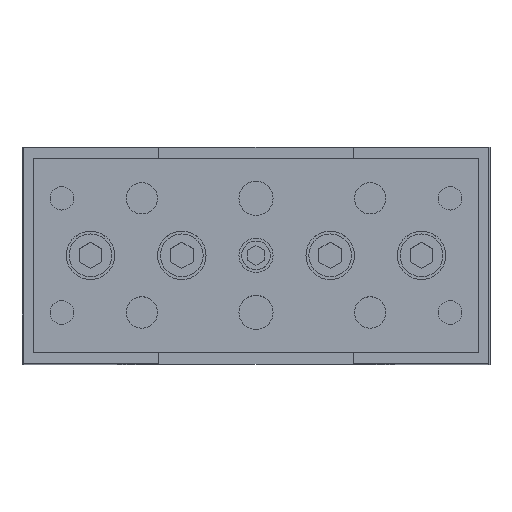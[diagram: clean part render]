
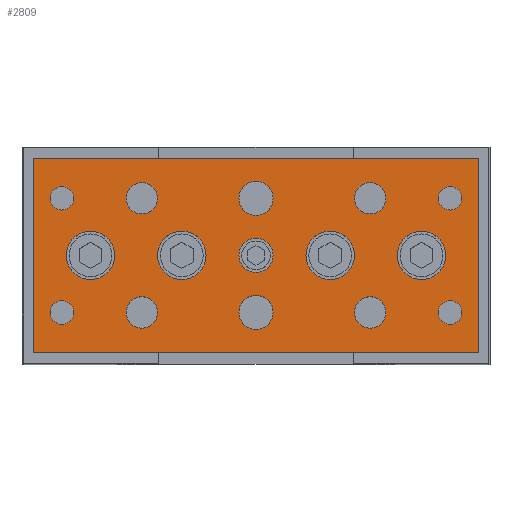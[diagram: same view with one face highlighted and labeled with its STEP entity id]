
A CAD part, top view. The second image highlights one B-rep face of the part: STEP entity #2809.
In plain terms, the highlighted planar face has unit normal (0, 0, 1).
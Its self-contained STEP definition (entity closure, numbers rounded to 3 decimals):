
#770=CARTESIAN_POINT('',(22.75,-10.0,226.0));
#771=VERTEX_POINT('',#770);
#772=CARTESIAN_POINT('',(20.0,-10.0,226.0));
#773=DIRECTION('',(0.0,0.0,-1.0));
#774=DIRECTION('',(-1.0,0.0,0.0));
#775=AXIS2_PLACEMENT_3D('',#772,#773,#774);
#776=CIRCLE('',#775,2.75);
#777=EDGE_CURVE('',#771,#771,#776,.T.);
#880=CARTESIAN_POINT('',(-17.25,-10.0,226.0));
#881=VERTEX_POINT('',#880);
#882=CARTESIAN_POINT('',(-20.0,-10.0,226.0));
#883=DIRECTION('',(0.0,0.0,-1.0));
#884=DIRECTION('',(-1.0,0.0,0.0));
#885=AXIS2_PLACEMENT_3D('',#882,#883,#884);
#886=CIRCLE('',#885,2.75);
#887=EDGE_CURVE('',#881,#881,#886,.T.);
#990=CARTESIAN_POINT('',(22.75,10.0,226.0));
#991=VERTEX_POINT('',#990);
#992=CARTESIAN_POINT('',(20.0,10.0,226.0));
#993=DIRECTION('',(0.0,0.0,-1.0));
#994=DIRECTION('',(-1.0,0.0,0.0));
#995=AXIS2_PLACEMENT_3D('',#992,#993,#994);
#996=CIRCLE('',#995,2.75);
#997=EDGE_CURVE('',#991,#991,#996,.T.);
#1100=CARTESIAN_POINT('',(-17.25,10.0,226.0));
#1101=VERTEX_POINT('',#1100);
#1102=CARTESIAN_POINT('',(-20.0,10.0,226.0));
#1103=DIRECTION('',(0.0,0.0,-1.0));
#1104=DIRECTION('',(-1.0,0.0,0.0));
#1105=AXIS2_PLACEMENT_3D('',#1102,#1103,#1104);
#1106=CIRCLE('',#1105,2.75);
#1107=EDGE_CURVE('',#1101,#1101,#1106,.T.);
#1131=CARTESIAN_POINT('',(3.,-10.0,226.0));
#1132=VERTEX_POINT('',#1131);
#1133=CARTESIAN_POINT('',(0.,-10.0,226.0));
#1134=DIRECTION('',(0.0,0.0,-1.0));
#1135=DIRECTION('',(-1.0,0.0,0.0));
#1136=AXIS2_PLACEMENT_3D('',#1133,#1134,#1135);
#1137=CIRCLE('',#1136,3.);
#1138=EDGE_CURVE('',#1132,#1132,#1137,.T.);
#1168=CARTESIAN_POINT('',(3.,10.0,226.0));
#1169=VERTEX_POINT('',#1168);
#1170=CARTESIAN_POINT('',(0.,10.0,226.0));
#1171=DIRECTION('',(0.0,0.0,-1.0));
#1172=DIRECTION('',(-1.0,0.0,0.0));
#1173=AXIS2_PLACEMENT_3D('',#1170,#1171,#1172);
#1174=CIRCLE('',#1173,3.);
#1175=EDGE_CURVE('',#1169,#1169,#1174,.T.);
#1226=CARTESIAN_POINT('',(-31.933,10.0,226.0));
#1227=VERTEX_POINT('',#1226);
#1228=CARTESIAN_POINT('',(-34.0,10.0,226.0));
#1229=DIRECTION('',(0.0,0.0,-1.0));
#1230=DIRECTION('',(1.0,0.0,0.0));
#1231=AXIS2_PLACEMENT_3D('',#1228,#1229,#1230);
#1232=CIRCLE('',#1231,2.067);
#1233=EDGE_CURVE('',#1227,#1227,#1232,.T.);
#1275=CARTESIAN_POINT('',(36.067,10.0,226.0));
#1276=VERTEX_POINT('',#1275);
#1277=CARTESIAN_POINT('',(34.0,10.0,226.0));
#1278=DIRECTION('',(0.0,0.0,-1.0));
#1279=DIRECTION('',(1.0,0.0,0.0));
#1280=AXIS2_PLACEMENT_3D('',#1277,#1278,#1279);
#1281=CIRCLE('',#1280,2.067);
#1282=EDGE_CURVE('',#1276,#1276,#1281,.T.);
#1324=CARTESIAN_POINT('',(-31.933,-10.0,226.0));
#1325=VERTEX_POINT('',#1324);
#1326=CARTESIAN_POINT('',(-34.0,-10.0,226.0));
#1327=DIRECTION('',(0.0,0.0,-1.0));
#1328=DIRECTION('',(1.0,0.0,0.0));
#1329=AXIS2_PLACEMENT_3D('',#1326,#1327,#1328);
#1330=CIRCLE('',#1329,2.067);
#1331=EDGE_CURVE('',#1325,#1325,#1330,.T.);
#1373=CARTESIAN_POINT('',(36.067,-10.0,226.0));
#1374=VERTEX_POINT('',#1373);
#1375=CARTESIAN_POINT('',(34.0,-10.0,226.0));
#1376=DIRECTION('',(0.0,0.0,-1.0));
#1377=DIRECTION('',(1.0,0.0,0.0));
#1378=AXIS2_PLACEMENT_3D('',#1375,#1376,#1377);
#1379=CIRCLE('',#1378,2.067);
#1380=EDGE_CURVE('',#1374,#1374,#1379,.T.);
#2029=CARTESIAN_POINT('',(3.,0.,226.0));
#2030=VERTEX_POINT('',#2029);
#2031=CARTESIAN_POINT('',(0.,0.0,226.0));
#2032=DIRECTION('',(0.0,0.0,-1.0));
#2033=DIRECTION('',(-1.0,0.0,0.0));
#2034=AXIS2_PLACEMENT_3D('',#2031,#2032,#2033);
#2035=CIRCLE('',#2034,3.);
#2036=EDGE_CURVE('',#2030,#2030,#2035,.T.);
#2097=CARTESIAN_POINT('',(17.25,0.,226.0));
#2098=VERTEX_POINT('',#2097);
#2099=CARTESIAN_POINT('',(13.,0.0,226.0));
#2100=DIRECTION('',(0.0,0.0,-1.0));
#2101=DIRECTION('',(-1.0,0.0,0.0));
#2102=AXIS2_PLACEMENT_3D('',#2099,#2100,#2101);
#2103=CIRCLE('',#2102,4.25);
#2104=EDGE_CURVE('',#2098,#2098,#2103,.T.);
#2165=CARTESIAN_POINT('',(-8.75,0.,226.0));
#2166=VERTEX_POINT('',#2165);
#2167=CARTESIAN_POINT('',(-13.,0.0,226.0));
#2168=DIRECTION('',(0.0,0.0,-1.0));
#2169=DIRECTION('',(-1.0,0.0,0.0));
#2170=AXIS2_PLACEMENT_3D('',#2167,#2168,#2169);
#2171=CIRCLE('',#2170,4.25);
#2172=EDGE_CURVE('',#2166,#2166,#2171,.T.);
#2233=CARTESIAN_POINT('',(33.25,0.,226.0));
#2234=VERTEX_POINT('',#2233);
#2235=CARTESIAN_POINT('',(29.,0.0,226.0));
#2236=DIRECTION('',(0.0,0.0,-1.0));
#2237=DIRECTION('',(-1.0,0.0,0.0));
#2238=AXIS2_PLACEMENT_3D('',#2235,#2236,#2237);
#2239=CIRCLE('',#2238,4.25);
#2240=EDGE_CURVE('',#2234,#2234,#2239,.T.);
#2301=CARTESIAN_POINT('',(-24.75,0.,226.0));
#2302=VERTEX_POINT('',#2301);
#2303=CARTESIAN_POINT('',(-29.,0.0,226.0));
#2304=DIRECTION('',(0.0,0.0,-1.0));
#2305=DIRECTION('',(-1.0,0.0,0.0));
#2306=AXIS2_PLACEMENT_3D('',#2303,#2304,#2305);
#2307=CIRCLE('',#2306,4.25);
#2308=EDGE_CURVE('',#2302,#2302,#2307,.T.);
#2725=CARTESIAN_POINT('',(39.0,0.0,226.0));
#2726=DIRECTION('',(0.0,0.0,1.0));
#2727=DIRECTION('',(1.0,0.0,0.0));
#2728=AXIS2_PLACEMENT_3D('',#2725,#2726,#2727);
#2729=PLANE('',#2728);
#2730=CARTESIAN_POINT('',(39.0,17.0,226.0));
#2731=VERTEX_POINT('',#2730);
#2732=CARTESIAN_POINT('',(-39.0,17.0,226.0));
#2733=VERTEX_POINT('',#2732);
#2734=CARTESIAN_POINT('',(39.0,17.0,226.0));
#2735=DIRECTION('',(-1.0,0.0,0.0));
#2736=VECTOR('',#2735,78.0);
#2737=LINE('',#2734,#2736);
#2738=EDGE_CURVE('',#2731,#2733,#2737,.T.);
#2739=ORIENTED_EDGE('',*,*,#2738,.T.);
#2740=CARTESIAN_POINT('',(-39.0,-17.0,226.0));
#2741=VERTEX_POINT('',#2740);
#2742=CARTESIAN_POINT('',(-39.0,17.0,226.0));
#2743=DIRECTION('',(0.0,-1.0,0.0));
#2744=VECTOR('',#2743,34.0);
#2745=LINE('',#2742,#2744);
#2746=EDGE_CURVE('',#2733,#2741,#2745,.T.);
#2747=ORIENTED_EDGE('',*,*,#2746,.T.);
#2748=CARTESIAN_POINT('',(39.0,-17.0,226.0));
#2749=VERTEX_POINT('',#2748);
#2750=CARTESIAN_POINT('',(-39.0,-17.0,226.0));
#2751=DIRECTION('',(1.0,0.0,0.0));
#2752=VECTOR('',#2751,78.0);
#2753=LINE('',#2750,#2752);
#2754=EDGE_CURVE('',#2741,#2749,#2753,.T.);
#2755=ORIENTED_EDGE('',*,*,#2754,.T.);
#2756=CARTESIAN_POINT('',(39.0,-17.0,226.0));
#2757=DIRECTION('',(0.0,1.0,0.0));
#2758=VECTOR('',#2757,34.0);
#2759=LINE('',#2756,#2758);
#2760=EDGE_CURVE('',#2749,#2731,#2759,.T.);
#2761=ORIENTED_EDGE('',*,*,#2760,.T.);
#2762=EDGE_LOOP('',(#2739,#2747,#2755,#2761));
#2763=FACE_OUTER_BOUND('',#2762,.T.);
#2764=ORIENTED_EDGE('',*,*,#777,.T.);
#2765=EDGE_LOOP('',(#2764));
#2766=FACE_BOUND('',#2765,.T.);
#2767=ORIENTED_EDGE('',*,*,#887,.T.);
#2768=EDGE_LOOP('',(#2767));
#2769=FACE_BOUND('',#2768,.T.);
#2770=ORIENTED_EDGE('',*,*,#997,.T.);
#2771=EDGE_LOOP('',(#2770));
#2772=FACE_BOUND('',#2771,.T.);
#2773=ORIENTED_EDGE('',*,*,#1107,.T.);
#2774=EDGE_LOOP('',(#2773));
#2775=FACE_BOUND('',#2774,.T.);
#2776=ORIENTED_EDGE('',*,*,#1138,.T.);
#2777=EDGE_LOOP('',(#2776));
#2778=FACE_BOUND('',#2777,.T.);
#2779=ORIENTED_EDGE('',*,*,#1175,.T.);
#2780=EDGE_LOOP('',(#2779));
#2781=FACE_BOUND('',#2780,.T.);
#2782=ORIENTED_EDGE('',*,*,#1233,.T.);
#2783=EDGE_LOOP('',(#2782));
#2784=FACE_BOUND('',#2783,.T.);
#2785=ORIENTED_EDGE('',*,*,#1282,.T.);
#2786=EDGE_LOOP('',(#2785));
#2787=FACE_BOUND('',#2786,.T.);
#2788=ORIENTED_EDGE('',*,*,#1331,.T.);
#2789=EDGE_LOOP('',(#2788));
#2790=FACE_BOUND('',#2789,.T.);
#2791=ORIENTED_EDGE('',*,*,#1380,.T.);
#2792=EDGE_LOOP('',(#2791));
#2793=FACE_BOUND('',#2792,.T.);
#2794=ORIENTED_EDGE('',*,*,#2308,.T.);
#2795=EDGE_LOOP('',(#2794));
#2796=FACE_BOUND('',#2795,.T.);
#2797=ORIENTED_EDGE('',*,*,#2240,.T.);
#2798=EDGE_LOOP('',(#2797));
#2799=FACE_BOUND('',#2798,.T.);
#2800=ORIENTED_EDGE('',*,*,#2172,.T.);
#2801=EDGE_LOOP('',(#2800));
#2802=FACE_BOUND('',#2801,.T.);
#2803=ORIENTED_EDGE('',*,*,#2104,.T.);
#2804=EDGE_LOOP('',(#2803));
#2805=FACE_BOUND('',#2804,.T.);
#2806=ORIENTED_EDGE('',*,*,#2036,.T.);
#2807=EDGE_LOOP('',(#2806));
#2808=FACE_BOUND('',#2807,.T.);
#2809=ADVANCED_FACE('',(#2763,#2766,#2769,#2772,#2775,#2778,#2781,#2784,#2787,#2790,#2793,#2796,#2799,#2802,#2805,#2808),#2729,.T.);
